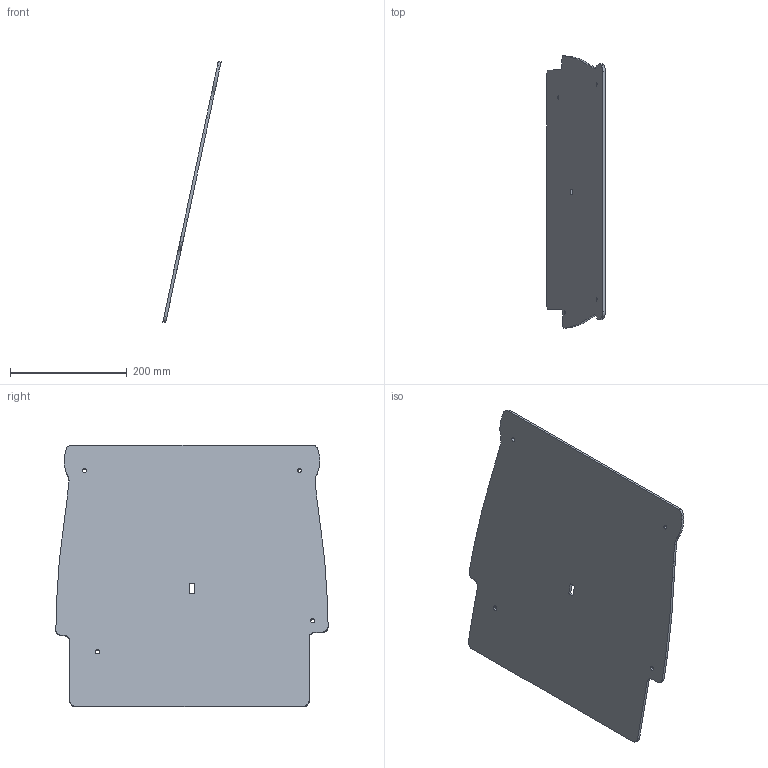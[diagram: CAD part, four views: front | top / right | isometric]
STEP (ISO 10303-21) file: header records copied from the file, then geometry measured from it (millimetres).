
FILE_DESCRIPTION(('CATIA V5 STEP Exchange'),'2;1');
FILE_NAME('E:\福田轻卡项目\01-M4中期改款项目\8、2D\基础款2D\附件2D\新建文件夹\SLT0011053--副驾靠背背板总成\SLT0011992.stp','2023-09-14T10:15:19+00:00',('none'),('none'),'CATIA Version 5 Release 20 GA (IN-10)','CATIA V5 STEP AP214','none');
FILE_SCHEMA(('AUTOMOTIVE_DESIGN { 1 0 10303 214 1 1 1 1 }'));
Length unit declared in the file: millimetre
Products named in the file (1): SLT0011194
Bounding box: 99.91 x 466.18 x 448.06 mm (x, y, z)
Volume: 994167.7 mm3; surface area: 407331.3 mm2
Topology: 1 solids, 1 shells, 44 faces, 126 edges, 91 vertices
Faces by surface type: cylinder 16, plane 14, bspline 12, extrusion 2
Entity records: 2320 total; most frequent: CARTESIAN_POINT 1282, ORIENTED_EDGE 252, EDGE_CURVE 126, DIRECTION 110, VERTEX_POINT 84, B_SPLINE_CURVE_WITH_KNOTS 74, EDGE_LOOP 54, AXIS2_PLACEMENT_3D 44
